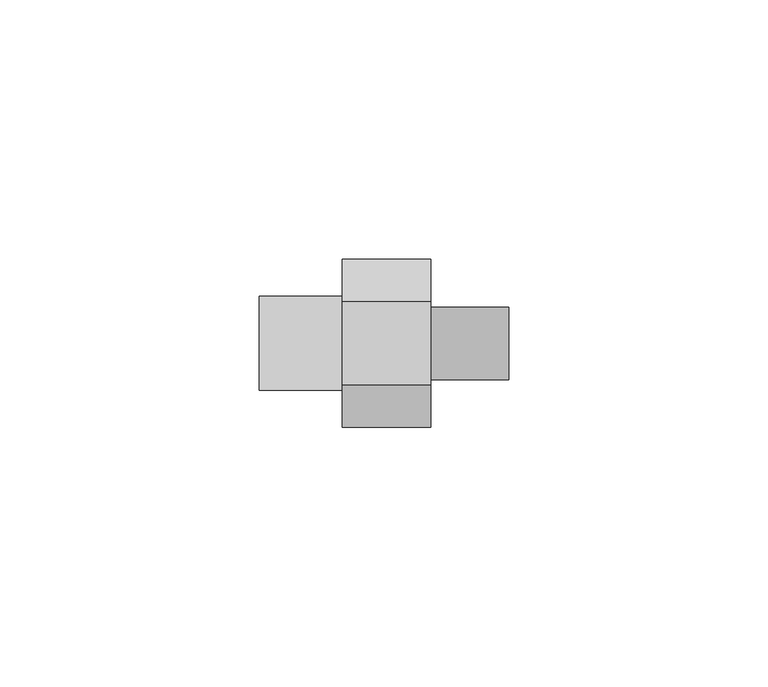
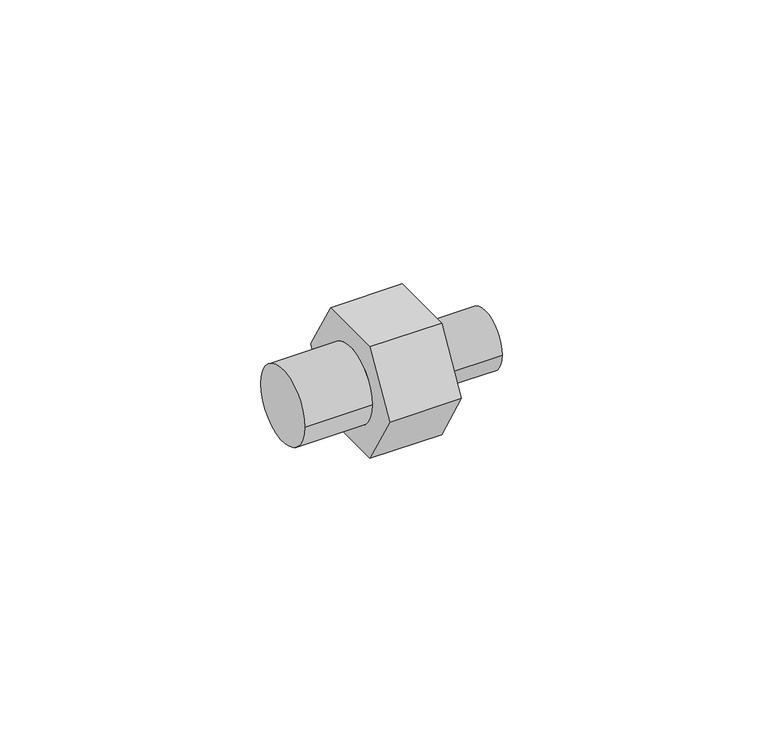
"""IFC4 building model written with IfcOpenShell, lengths in millimetres: pipe fitting geometry, 01011197 : Machones doble rosca reducidas."""

from ifc_helpers import new_model, si_unit, frame, origin, place, context, project, spatial, circle_curve, source, transform, mapped, element, save
from ifc_brep_helpers import plane_surface, cylinder_surface, advanced_brep


def pipe_fitting_9c1602a7(model_context):
    return source(origin(), model_context, "Body", "AdvancedBrep", [
        advanced_brep(
        [(33.0, -8.0829038, 14.0), (33.0, -16.1658075, 0.0), (33.0, -8.0829038, -14.0), (33.0, 8.0829038, -14.0), (33.0, 16.1658075, 0.0), (33.0, 8.0829038, 14.0), (33.0, -6.985, 0.0), (33.0, 6.985, 0.0), (16.0, -8.0829038, 14.0), (16.0, 8.0829038, 14.0), (16.0, 16.1658075, 0.0), (16.0, 8.0829038, -14.0), (16.0, -8.0829038, -14.0), (16.0, -16.1658075, 0.0), (16.0, 9.04875, 0.0), (16.0, -9.04875, 0.0), (48.0, -6.985, 0.0), (48.0, 6.985, 0.0), (0.0, 9.04875, 0.0), (0.0, -9.04875, 0.0)],
        [
            (0, 1),
            (1, 2),
            (2, 3),
            (3, 4),
            (4, 5),
            (5, 0),
            (6, 7, circle_curve(frame((33.0, 0.0, 0.0), z_axis=(-1.0, 0.0, 0.0), x_axis=(0.0, 1.0, 0.0)), 6.985)),
            (7, 6, circle_curve(frame((33.0, 0.0, 0.0), z_axis=(-1.0, 0.0, 0.0), x_axis=(0.0, 1.0, 0.0)), 6.985)),
            (8, 9),
            (9, 10),
            (10, 11),
            (11, 12),
            (12, 13),
            (13, 8),
            (14, 15, circle_curve(frame((16.0, 0.0, 0.0), z_axis=(1.0, 0.0, 0.0), x_axis=(0.0, -1.0, 0.0)), 9.04875)),
            (15, 14, circle_curve(frame((16.0, 0.0, 0.0), z_axis=(1.0, 0.0, 0.0), x_axis=(0.0, -1.0, 0.0)), 9.04875)),
            (0, 8),
            (13, 1),
            (12, 2),
            (11, 3),
            (10, 4),
            (9, 5),
            (16, 17, circle_curve(frame((48.0, 0.0, 0.0), z_axis=(1.0, 0.0, 0.0), x_axis=(0.0, 1.0, 0.0)), 6.985)),
            (17, 16, circle_curve(frame((48.0, 0.0, 0.0), z_axis=(1.0, 0.0, 0.0), x_axis=(0.0, 1.0, 0.0)), 6.985)),
            (17, 7),
            (6, 16),
            (18, 19, circle_curve(frame((0.0, 0.0, 0.0), z_axis=(-1.0, 0.0, 0.0), x_axis=(0.0, -1.0, 0.0)), 9.04875)),
            (19, 18, circle_curve(frame((0.0, 0.0, 0.0), z_axis=(-1.0, 0.0, 0.0), x_axis=(0.0, -1.0, 0.0)), 9.04875)),
            (19, 15),
            (14, 18),
        ],
        [
            plane_surface(frame((33.0, -8.0829038, 14.0), z_axis=(1.0, 0.0, 0.0), x_axis=(0.0, -0.5000000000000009, -0.8660254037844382))),
            plane_surface(frame((16.0, -8.0829038, 14.0), z_axis=(-1.0, 0.0, 0.0), x_axis=(0.0, 0.5000000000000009, 0.8660254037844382))),
            plane_surface(frame((33.0, -8.0829038, 14.0), z_axis=(0.0, -0.8660254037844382, 0.5000000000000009), x_axis=(-1.0, 0.0, 0.0))),
            plane_surface(frame((33.0, -16.1658075, 0.0), z_axis=(0.0, -0.8660254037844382, -0.500000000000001), x_axis=(-1.0, 0.0, 0.0))),
            plane_surface(frame((33.0, -8.0829038, -14.0), z_axis=(0.0, 0.0, -1.0), x_axis=(-1.0, 0.0, 0.0))),
            plane_surface(frame((33.0, 8.0829038, -14.0), z_axis=(0.0, 0.8660254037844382, -0.5000000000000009), x_axis=(-1.0, 0.0, 0.0))),
            plane_surface(frame((33.0, 16.1658075, 0.0), z_axis=(0.0, 0.866025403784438, 0.500000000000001), x_axis=(-1.0, 0.0, 0.0))),
            plane_surface(frame((33.0, 8.0829038, 14.0), z_axis=(0.0, 0.0, 1.0), x_axis=(-1.0, 0.0, 0.0))),
            plane_surface(frame((48.0, 0.0, 0.0), z_axis=(1.0, 0.0, 0.0), x_axis=(0.0, 0.0, 1.0))),
            cylinder_surface(frame((33.0, 0.0, 0.0), z_axis=(-1.0, 0.0, 0.0), x_axis=(0.0, 1.0, 0.0)), 6.985),
            plane_surface(frame((0.0, 0.0, 0.0), z_axis=(-1.0, 0.0, 0.0), x_axis=(0.0, 0.0, 1.0))),
            cylinder_surface(frame((16.0, 0.0, 0.0), z_axis=(1.0, 0.0, 0.0), x_axis=(0.0, -1.0, 0.0)), 9.04875),
        ],
        [
            (0, [[1, 2, 3, 4, 5, 6], [7, 8]]),
            (1, [[9, 10, 11, 12, 13, 14], [15, 16]]),
            (2, [[-1, 17, -14, 18]]),
            (3, [[-2, -18, -13, 19]]),
            (4, [[-3, -19, -12, 20]]),
            (5, [[-4, -20, -11, 21]]),
            (6, [[-5, -21, -10, 22]]),
            (7, [[-6, -22, -9, -17]]),
            (8, [[23, 24]]),
            (9, [[-24, 25, -7, 26]]),
            (9, [[-23, -26, -8, -25]]),
            (10, [[27, 28]]),
            (11, [[-28, 29, -15, 30]]),
            (11, [[-27, -30, -16, -29]]),
        ],
    ),
    ])


if __name__ == "__main__":
    model = new_model("IFC4")
    model_context = context("Model", 3, world=origin())
    ifc_project = project(units=[si_unit("LENGTHUNIT", "METRE", prefix="MILLI")], contexts=[model_context])
    site = spatial("IfcSite", under=ifc_project)
    building = spatial("IfcBuilding", under=site)
    placement = place(None, origin())
    pipe_fitting_shape = pipe_fitting_9c1602a7(model_context)
    element("IfcPipeFitting", 1, ObjectType="01011197 : Machones doble rosca reducidas", at=placement, inside=building, context=model_context, shape_type="MappedRepresentation", body=[
        mapped(pipe_fitting_shape, transform((0.0, 0.0, 0.0), x_axis=(1.0, 0.0, 0.0), y_axis=(0.0, 1.0, 0.0), z_axis=(0.0, 0.0, 1.0))),
    ])
    save(model, "model.ifc")
